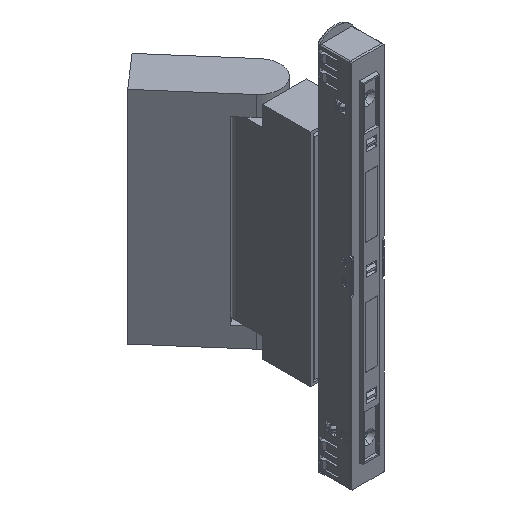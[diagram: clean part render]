
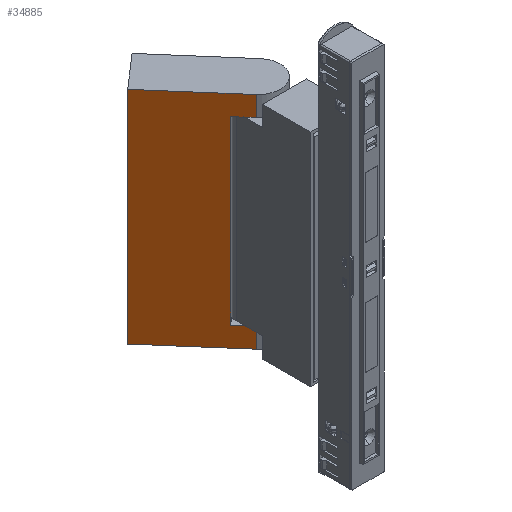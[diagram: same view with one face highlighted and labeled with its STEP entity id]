
A CAD part, isometric view. The second image highlights one B-rep face of the part: STEP entity #34885.
In plain terms, the highlighted planar face has unit normal (-0.755, -0.656, 0) as drawn and (1, 0, 0) by its records, which use the part's own axes.
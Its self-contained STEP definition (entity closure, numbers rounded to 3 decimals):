
#65 = CARTESIAN_POINT ( 'NONE',  ( 11., 28.2, 45. ) ) ;
#684 = DIRECTION ( 'NONE',  ( 0., 0., -1. ) ) ;
#2332 = CARTESIAN_POINT ( 'NONE',  ( 11., 17.2, 45. ) ) ;
#3717 = LINE ( 'NONE', #20455, #11638 ) ;
#7400 = ORIENTED_EDGE ( 'NONE', *, *, #31770, .T. ) ;
#7437 = CARTESIAN_POINT ( 'NONE',  ( 11., -28.2, -55. ) ) ;
#8732 = EDGE_CURVE ( 'NONE', #10619, #10297, #12436, .T. ) ;
#9681 = CARTESIAN_POINT ( 'NONE',  ( 11., 0., 55. ) ) ;
#10297 = VERTEX_POINT ( 'NONE', #12990 ) ;
#10619 = VERTEX_POINT ( 'NONE', #10707 ) ;
#10707 = CARTESIAN_POINT ( 'NONE',  ( 11., 8.2, -45. ) ) ;
#11130 = DIRECTION ( 'NONE',  ( 0., 1., 0. ) ) ;
#11638 = VECTOR ( 'NONE', #37166, 1000. ) ;
#12011 = DIRECTION ( 'NONE',  ( 0., 0., -1. ) ) ;
#12310 = CARTESIAN_POINT ( 'NONE',  ( 11., 17.2, 55. ) ) ;
#12436 = LINE ( 'NONE', #29138, #45352 ) ;
#12699 = EDGE_CURVE ( 'NONE', #45271, #17997, #21519, .T. ) ;
#12990 = CARTESIAN_POINT ( 'NONE',  ( 11., 8.2, 45. ) ) ;
#14605 = LINE ( 'NONE', #31321, #21765 ) ;
#16780 = DIRECTION ( 'NONE',  ( 0., 1., 0. ) ) ;
#17518 = EDGE_LOOP ( 'NONE', ( #24663, #43134, #38329, #40103, #35184, #7400, #23562, #24978 ) ) ;
#17997 = VERTEX_POINT ( 'NONE', #43916 ) ;
#20455 = CARTESIAN_POINT ( 'NONE',  ( 11., 8.2, -45. ) ) ;
#20569 = VECTOR ( 'NONE', #16780, 1000. ) ;
#21519 = LINE ( 'NONE', #38231, #54154 ) ;
#21765 = VECTOR ( 'NONE', #48055, 1000. ) ;
#23562 = ORIENTED_EDGE ( 'NONE', *, *, #12699, .F. ) ;
#23656 = EDGE_CURVE ( 'NONE', #45271, #10619, #3717, .T. ) ;
#24155 = DIRECTION ( 'NONE',  ( 1., 0., 0. ) ) ;
#24663 = ORIENTED_EDGE ( 'NONE', *, *, #8732, .T. ) ;
#24978 = ORIENTED_EDGE ( 'NONE', *, *, #23656, .T. ) ;
#26389 = DIRECTION ( 'NONE',  ( 0., 1., 0. ) ) ;
#27441 = VECTOR ( 'NONE', #11130, 1000. ) ;
#27798 = EDGE_CURVE ( 'NONE', #10297, #49116, #37614, .T. ) ;
#28128 = CARTESIAN_POINT ( 'NONE',  ( 11., 17.2, -45. ) ) ;
#28249 = FACE_OUTER_BOUND ( 'NONE', #17518, .T. ) ;
#29138 = CARTESIAN_POINT ( 'NONE',  ( 11., 8.2, 45. ) ) ;
#31321 = CARTESIAN_POINT ( 'NONE',  ( 11., -28.2, -55. ) ) ;
#31770 = EDGE_CURVE ( 'NONE', #47355, #17997, #31951, .T. ) ;
#31951 = LINE ( 'NONE', #48686, #27441 ) ;
#32835 = LINE ( 'NONE', #49570, #33564 ) ;
#33564 = VECTOR ( 'NONE', #12011, 1000. ) ;
#33927 = EDGE_CURVE ( 'NONE', #39539, #49116, #32835, .T. ) ;
#34885 = ADVANCED_FACE ( 'NONE', ( #28249 ), #44990, .T. ) ;
#35184 = ORIENTED_EDGE ( 'NONE', *, *, #52208, .F. ) ;
#37166 = DIRECTION ( 'NONE',  ( 0., -1., 0. ) ) ;
#37614 = LINE ( 'NONE', #65, #20569 ) ;
#38231 = CARTESIAN_POINT ( 'NONE',  ( 11., 17.2, -55. ) ) ;
#38329 = ORIENTED_EDGE ( 'NONE', *, *, #33927, .F. ) ;
#39409 = CARTESIAN_POINT ( 'NONE',  ( 11., -28.2, 55. ) ) ;
#39539 = VERTEX_POINT ( 'NONE', #12310 ) ;
#40103 = ORIENTED_EDGE ( 'NONE', *, *, #49321, .F. ) ;
#40873 = DIRECTION ( 'NONE',  ( 0., 0., -1. ) ) ;
#42380 = AXIS2_PLACEMENT_3D ( 'NONE', #7437, #24155, #40873 ) ;
#43134 = ORIENTED_EDGE ( 'NONE', *, *, #27798, .T. ) ;
#43916 = CARTESIAN_POINT ( 'NONE',  ( 11., 17.2, -55. ) ) ;
#44990 = PLANE ( 'NONE',  #42380 ) ;
#45271 = VERTEX_POINT ( 'NONE', #28128 ) ;
#45352 = VECTOR ( 'NONE', #45878, 1000. ) ;
#45878 = DIRECTION ( 'NONE',  ( 0., 0., 1. ) ) ;
#47233 = LINE ( 'NONE', #9681, #54003 ) ;
#47355 = VERTEX_POINT ( 'NONE', #51075 ) ;
#48055 = DIRECTION ( 'NONE',  ( 0., 0., 1. ) ) ;
#48686 = CARTESIAN_POINT ( 'NONE',  ( 11., 0., -55. ) ) ;
#49116 = VERTEX_POINT ( 'NONE', #2332 ) ;
#49321 = EDGE_CURVE ( 'NONE', #53662, #39539, #47233, .T. ) ;
#49570 = CARTESIAN_POINT ( 'NONE',  ( 11., 17.2, -55. ) ) ;
#51075 = CARTESIAN_POINT ( 'NONE',  ( 11., -28.2, -55. ) ) ;
#52208 = EDGE_CURVE ( 'NONE', #47355, #53662, #14605, .T. ) ;
#53662 = VERTEX_POINT ( 'NONE', #39409 ) ;
#54003 = VECTOR ( 'NONE', #26389, 1000. ) ;
#54154 = VECTOR ( 'NONE', #684, 1000. ) ;
